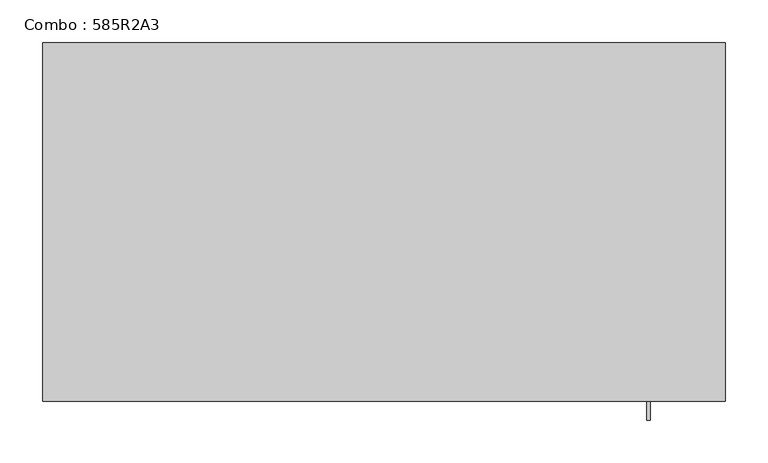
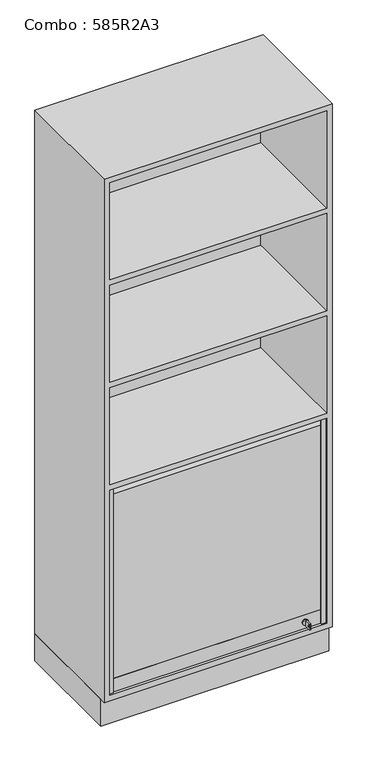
"""IFC4 building model written with IfcOpenShell, lengths in millimetres: furniture geometry, Combo : 585R2A3."""

import ifcopenshell
import ifcopenshell.guid

model = None  # the IFC model being written
_history = None  # IfcOwnerHistory: only IFC2X3 demands one
_inside = {}  # id of a spatial element -> (the spatial element, [elements in it])
_under = {}  # id of a project, library or spatial element -> (it, [spatial elements below it])
_declared = {}  # id of a project -> (the project, [libraries it declares])
_typed = {}  # id of a type object -> (the type object, [elements of that type])
_made_of = {}  # id of a material, layer set ... -> (it, [elements and type objects made of it])


def new_model(schema):
    """Start an empty IFC model of exactly this schema.

    Asked for "IFC4X3", IfcOpenShell would pick the latest addendum, in which some entities
    have other attributes; the version numbers below select the first issue.
    IFC2X3 requires an IfcOwnerHistory on every rooted entity: one is made here for all.
    """
    global model, _history
    if schema == "IFC4X3":
        model = ifcopenshell.file(schema_version=(4, 3, 0, 0))
    else:
        model = ifcopenshell.file(schema=schema)
    _inside.clear()
    _under.clear()
    _declared.clear()
    _typed.clear()
    _made_of.clear()
    _history = None
    if model.schema == "IFC2X3":
        org = make("IfcOrganization", Name="unknown")
        user = make(
            "IfcPersonAndOrganization",
            ThePerson=make("IfcPerson", FamilyName="unknown"),
            TheOrganization=org,
        )
        app = make(
            "IfcApplication",
            ApplicationDeveloper=org,
            Version="unknown",
            ApplicationFullName="unknown",
            ApplicationIdentifier="unknown",
        )
        _history = make(
            "IfcOwnerHistory",
            OwningUser=user,
            OwningApplication=app,
            ChangeAction="ADDED",
            CreationDate=0,
        )
    return model


def make(cls, **values):
    """One entity of the class cls with the attributes given. An attribute that is None is left unset."""
    return model.create_entity(
        cls, **{name: value for name, value in values.items() if value is not None}
    )


def rooted(cls, **values):
    """An entity with a GlobalId (a new one), such as an element, a storey or a relation."""
    return make(cls, GlobalId=ifcopenshell.guid.new(), OwnerHistory=_history, **values)


def si_unit(unit_type, name, prefix=None):
    """IfcSIUnit, for example si_unit("LENGTHUNIT", "METRE", prefix="MILLI")."""
    return make("IfcSIUnit", UnitType=unit_type, Prefix=prefix, Name=name)


def assignment(units):
    """IfcUnitAssignment: the units of a project."""
    return None if units is None else make("IfcUnitAssignment", Units=units)


def point(xyz):
    """IfcCartesianPoint."""
    return None if xyz is None else make("IfcCartesianPoint", Coordinates=xyz)


def direction(xyz):
    """IfcDirection."""
    return None if xyz is None else make("IfcDirection", DirectionRatios=xyz)


def frame(location, z_axis=None, x_axis=None):
    """IfcAxis2Placement3D, a coordinate frame: its origin and axes. An axis left out is left unset."""
    return make(
        "IfcAxis2Placement3D",
        Location=point(location),
        Axis=direction(z_axis),
        RefDirection=direction(x_axis),
    )


def frame_2d(location, x_axis=None):
    """IfcAxis2Placement2D, a coordinate frame in the plane: its origin and x axis."""
    return make(
        "IfcAxis2Placement2D", Location=point(location), RefDirection=direction(x_axis)
    )


def origin():
    """The frame at (0, 0, 0) with its axes left unset."""
    return frame((0.0, 0.0, 0.0))


def origin_with_axes():
    """The frame at (0, 0, 0) with the z axis (0, 0, 1) and the x axis (1, 0, 0) written out."""
    return frame((0.0, 0.0, 0.0), z_axis=(0.0, 0.0, 1.0), x_axis=(1.0, 0.0, 0.0))


def place(relative_to, where):
    """IfcLocalPlacement: puts the frame where relative to a parent placement (None: the world)."""
    return make(
        "IfcLocalPlacement", PlacementRelTo=relative_to, RelativePlacement=where
    )


def context(
    kind, dimensions, precision=None, world=None, true_north=None, identifier=None
):
    """IfcGeometricRepresentationContext, for example the 3D "Model" context."""
    return make(
        "IfcGeometricRepresentationContext",
        ContextIdentifier=identifier,
        ContextType=kind,
        CoordinateSpaceDimension=dimensions,
        Precision=precision,
        WorldCoordinateSystem=world,
        TrueNorth=true_north,
    )


def project(units=None, contexts=None):
    """IfcProject with its units and contexts."""
    return rooted(
        "IfcProject",
        Name="project",
        RepresentationContexts=contexts,
        UnitsInContext=assignment(units),
    )


def spatial(cls, under=None, at=None, **own):
    """A site, building, storey or space (cls), placed at a placement, below another one or the project."""
    s = rooted(cls, ObjectPlacement=at, **own)
    if under is not None:
        _under.setdefault(under.id(), (under, []))[1].append(s)
    return s


def polyline(points):
    """IfcPolyline through the points."""
    return make("IfcPolyline", Points=[point(p) for p in points])


def circle_curve(where, radius):
    """IfcCircle in the frame where."""
    return make("IfcCircle", Position=where, Radius=radius)


def trimmed(basis, trim1, trim2, sense, master):
    """IfcTrimmedCurve: the piece of a basis curve between two trims."""
    return make(
        "IfcTrimmedCurve",
        BasisCurve=basis,
        Trim1=trim1,
        Trim2=trim2,
        SenseAgreement=sense,
        MasterRepresentation=master,
    )


def segment(curve, same_sense, transition):
    """IfcCompositeCurveSegment."""
    return make(
        "IfcCompositeCurveSegment",
        Transition=transition,
        SameSense=same_sense,
        ParentCurve=curve,
    )


def composite_curve(segments, self_intersect=None):
    """IfcCompositeCurve: segments joined end to end."""
    return make("IfcCompositeCurve", Segments=segments, SelfIntersect=self_intersect)


def outline(outer, holes=None, kind="AREA"):
    """IfcArbitraryClosedProfileDef: a profile drawn as a closed curve; with holes, ...WithVoids."""
    if holes is None:
        return make("IfcArbitraryClosedProfileDef", ProfileType=kind, OuterCurve=outer)
    return make(
        "IfcArbitraryProfileDefWithVoids",
        ProfileType=kind,
        OuterCurve=outer,
        InnerCurves=holes,
    )


def extrude(swept, where, along, depth):
    """IfcExtrudedAreaSolid: the profile swept, set in the frame where, extruded along a direction by depth."""
    return make(
        "IfcExtrudedAreaSolid",
        SweptArea=swept,
        Position=where,
        ExtrudedDirection=direction(along),
        Depth=depth,
    )


def faces_of(points, faces, orient=None, outer=None):
    """IfcFace entities. A face is a list of loops; a loop is a list of indices into points, from 0.

    orient and outer hold one flag for each loop. By default every Orientation is true, the
    first loop of a face is its IfcFaceOuterBound and the others are IfcFaceBound.
    """
    made = []
    for i, loops in enumerate(faces):
        bounds = []
        for j, loop in enumerate(loops):
            is_outer = j == 0 if outer is None else outer[i][j]
            bounds.append(
                make(
                    "IfcFaceOuterBound" if is_outer else "IfcFaceBound",
                    Bound=make("IfcPolyLoop", Polygon=[points[k] for k in loop]),
                    Orientation=True if orient is None else orient[i][j],
                )
            )
        made.append(make("IfcFace", Bounds=bounds))
    return made


def faceted_brep(points, faces, orient=None, outer=None, voids=None):
    """IfcFacetedBrep: a solid bounded by flat faces; with voids (closed shells), ...WithVoids."""
    shared = [point(p) for p in points]
    hull = make("IfcClosedShell", CfsFaces=faces_of(shared, faces, orient, outer))
    if voids is None:
        return make("IfcFacetedBrep", Outer=hull)
    return make(
        "IfcFacetedBrepWithVoids",
        Outer=hull,
        Voids=[
            make(cls, CfsFaces=faces_of(shared, fs, o, b)) for cls, fs, o, b in voids
        ],
    )


def shape(context_of_items, identifier, shape_type, items):
    """IfcShapeRepresentation: the items that make up one representation, for example the "Body"."""
    return make(
        "IfcShapeRepresentation",
        ContextOfItems=context_of_items,
        RepresentationIdentifier=identifier,
        RepresentationType=shape_type,
        Items=items,
    )


def source(mapping_origin, context_of_items, identifier, shape_type, items):
    """IfcRepresentationMap: a shape defined once, which mapped items show again and again."""
    return make(
        "IfcRepresentationMap",
        MappingOrigin=mapping_origin,
        MappedRepresentation=shape(context_of_items, identifier, shape_type, items),
    )


def transform(
    local_origin,
    x_axis=None,
    y_axis=None,
    z_axis=None,
    scale=None,
    scale2=None,
    scale3=None,
    uniform=True,
):
    """IfcCartesianTransformationOperator3D, or its non-uniform kind. x_axis, y_axis, z_axis: its Axis1, 2, 3."""
    if uniform:
        return make(
            "IfcCartesianTransformationOperator3D",
            Axis1=direction(x_axis),
            Axis2=direction(y_axis),
            LocalOrigin=point(local_origin),
            Scale=scale,
            Axis3=direction(z_axis),
        )
    return make(
        "IfcCartesianTransformationOperator3DnonUniform",
        Axis1=direction(x_axis),
        Axis2=direction(y_axis),
        LocalOrigin=point(local_origin),
        Scale=scale,
        Axis3=direction(z_axis),
        Scale2=scale2,
        Scale3=scale3,
    )


def mapped(mapping_source, mapping_target):
    """IfcMappedItem: shows the shape of a source again, moved by a transform."""
    return make(
        "IfcMappedItem", MappingSource=mapping_source, MappingTarget=mapping_target
    )


def made_of(thing, what):
    """Note that an element or type object is made of a material, layer set ...; save() writes the relation."""
    if what is not None:
        _made_of.setdefault(what.id(), (what, []))[1].append(thing)
    return thing


def element(
    cls,
    number,
    at=None,
    inside=None,
    cuts=None,
    type_object=None,
    material=None,
    context=None,
    identifier="Body",
    shape_type=None,
    held_by="IfcProductDefinitionShape",
    body=None,
    shapes=None,
    **own,
):
    """One element of the class cls, such as IfcWall. Its Tag is "e" and its number.

    at: its placement. inside: the storey or other place that contains it. cuts: it is an
    opening in that element (IfcRelVoidsElement). A single representation is given by context,
    identifier, shape_type and body (its items); several are given by shapes. held_by: the class
    of the entity that holds the representations. save() writes the other relations.
    """
    e = rooted(cls, Tag="e%d" % number, ObjectPlacement=at, **own)
    if body is not None:
        shapes = [shape(context, identifier, shape_type, body)]
    if shapes is not None:
        e.Representation = make(held_by, Representations=shapes)
    if inside is not None:
        _inside.setdefault(inside.id(), (inside, []))[1].append(e)
    if cuts is not None:
        rooted(
            "IfcRelVoidsElement", RelatingBuildingElement=cuts, RelatedOpeningElement=e
        )
    if type_object is not None:
        _typed.setdefault(type_object.id(), (type_object, []))[1].append(e)
    return made_of(e, material)


def aggregate(whole, parts):
    """IfcRelAggregates: a whole, such as a stair, and the parts it consists of."""
    return rooted("IfcRelAggregates", RelatingObject=whole, RelatedObjects=parts)


def save(model, path):
    """Write the relations noted so far, then the file.

    IfcRelAggregates (storeys below a building ...), IfcRelContainedInSpatialStructure (elements
    in a storey), IfcRelDefinesByType, IfcRelAssociatesMaterial and IfcRelDeclares: one each for
    every whole, place, type object, material and project.
    """
    for whole, parts in _under.values():
        aggregate(whole, parts)
    for where, things in _inside.values():
        rooted(
            "IfcRelContainedInSpatialStructure",
            RelatedElements=things,
            RelatingStructure=where,
        )
    for kind, things in _typed.values():
        rooted("IfcRelDefinesByType", RelatedObjects=things, RelatingType=kind)
    for what, things in _made_of.values():
        rooted("IfcRelAssociatesMaterial", RelatedObjects=things, RelatingMaterial=what)
    for by, libraries in _declared.values():
        rooted("IfcRelDeclares", RelatingContext=by, RelatedDefinitions=libraries)
    model.write(path)


def combo_585r2a3_b05462e7(model_context):
    return source(origin(), model_context, "Body", "SolidModel", [
        extrude(outline(polyline([(-400.0, -400.0), (-400.0, 0.0), (400.0, 0.0), (400.0, -400.0), (-400.0, -400.0)])), origin_with_axes(), (0.0, 0.0, 1.0), 100.0),
        extrude(outline(composite_curve([segment(trimmed(circle_curve(frame_2d((145.0, 310.0)), 10.0), [point((145.0, 300.0))], [point((145.0, 320.0))], False, "CARTESIAN"), True, "CONTINUOUS"), segment(trimmed(circle_curve(frame_2d((145.0, 310.0)), 10.0), [point((145.0, 320.0))], [point((145.0, 300.0))], False, "CARTESIAN"), True, "CONTINUOUS")], self_intersect=False)), frame((0.0, -414.0, 0.0), z_axis=(0.0, 1.0, 0.0), x_axis=(0.0, 0.0, 1.0)), (0.0, 0.0, 1.0), 4.0),
        extrude(outline(polyline([(-442.0, 134.014113), (-442.0, 156.0), (-420.0, 156.0), (-420.0, 134.014113), (-442.0, 134.014113)]), holes=[composite_curve([segment(trimmed(circle_curve(frame_2d((-435.75, 145.0070565)), 3.2230706), [point((-435.75, 148.2301271))], [point((-435.75, 141.7839859))], True, "CARTESIAN"), True, "CONTINUOUS"), segment(trimmed(circle_curve(frame_2d((-435.75, 145.0070565)), 3.2230706), [point((-435.75, 141.7839859))], [point((-435.75, 148.2301271))], True, "CARTESIAN"), True, "CONTINUOUS")], self_intersect=False)]), frame((308.0, 0.0, 0.0), z_axis=(1.0, 0.0, 0.0), x_axis=(0.0, 1.0, 0.0)), (0.0, 0.0, 1.0), 4.0416064),
        extrude(outline(polyline([(311.0416064, -420.0), (309.0, -420.0), (309.0, -414.0), (311.0416064, -414.0), (311.0416064, -420.0)])), frame((0.0, 0.0, 141.014113), z_axis=(0.0, 0.0, 1.0), x_axis=(1.0, 0.0, 0.0)), (0.0, 0.0, 1.0), 7.985887),
        extrude(outline(polyline([(380.0, -400.0), (380.0, -410.0), (-380.0, -410.0), (-380.0, -400.0), (380.0, -400.0)])), frame((0.0, 0.0, 120.0), z_axis=(0.0, 0.0, 1.0), x_axis=(1.0, 0.0, 0.0)), (0.0, 0.0, 1.0), 50.0),
        extrude(outline(polyline([(-365.0, -415.0), (-380.0, -415.0), (-380.0, -410.0), (-365.0, -410.0), (-365.0, -415.0)])), frame((0.0, 0.0, 120.0), z_axis=(0.0, 0.0, 1.0), x_axis=(1.0, 0.0, 0.0)), (0.0, 0.0, 1.0), 760.0),
        extrude(outline(polyline([(380.0, -415.0), (365.0, -415.0), (365.0, -410.0), (380.0, -410.0), (380.0, -415.0)])), frame((0.0, 0.0, 120.0), z_axis=(0.0, 0.0, 1.0), x_axis=(1.0, 0.0, 0.0)), (0.0, 0.0, 1.0), 760.0),
        extrude(outline(composite_curve([segment(trimmed(circle_curve(frame_2d((-390.0, 854.0)), 20.0), [point((-410.0, 854.0))], [point((-390.0, 874.0))], False, "CARTESIAN"), True, "CONTINUOUS"), segment(polyline([(-390.0, 874.0), (-360.0, 874.0), (-360.0, 864.0), (-390.0, 864.0)]), True, "CONTINUOUS"), segment(trimmed(circle_curve(frame_2d((-390.0, 854.0)), 10.0), [point((-390.0, 864.0))], [point((-400.0, 854.0))], True, "CARTESIAN"), True, "CONTINUOUS"), segment(polyline([(-400.0, 854.0), (-400.0, 170.0), (-410.0, 170.0), (-410.0, 854.0)]), True, "CONTINUOUS")], self_intersect=False)), frame((-380.0, 0.0, 0.0), z_axis=(1.0, 0.0, 0.0), x_axis=(0.0, 1.0, 0.0)), (0.0, 0.0, 1.0), 760.0),
        faceted_brep([(400.0, 0.0, 2040.0), (-400.0, 0.0, 2040.0), (-400.0, -420.0, 2040.0), (400.0, -420.0, 2040.0), (-400.0, 0.0, 100.0), (400.0, 0.0, 100.0), (400.0, -420.0, 100.0), (-400.0, -420.0, 100.0), (-380.0, -420.0, 900.0), (-380.0, -420.0, 1260.0), (380.0, -420.0, 1260.0), (380.0, -420.0, 900.0), (380.0, -420.0, 1640.0), (380.0, -420.0, 1280.0), (-380.0, -420.0, 1280.0), (-380.0, -420.0, 1640.0), (-380.0, -420.0, 2020.0), (380.0, -420.0, 2020.0), (380.0, -420.0, 1660.0), (-380.0, -420.0, 1660.0), (380.0, -420.0, 880.0), (380.0, -420.0, 120.0), (-380.0, -420.0, 120.0), (-380.0, -420.0, 880.0), (380.0, -20.0, 1640.0), (380.0, -20.0, 1280.0), (-380.0, -20.0, 2020.0), (380.0, -20.0, 2020.0), (-380.0, -20.0, 900.0), (-380.0, -20.0, 1260.0), (380.0, -20.0, 900.0), (-380.0, -20.0, 1280.0), (-380.0, -20.0, 1640.0), (380.0, -20.0, 1660.0), (-380.0, -20.0, 1660.0), (-380.0, -20.0, 120.0), (380.0, -20.0, 120.0), (380.0, -20.0, 880.0), (-380.0, -20.0, 880.0), (380.0, -20.0, 1260.0)], [[[0, 1, 2, 3]], [[4, 5, 6, 7]], [[1, 0, 5, 4]], [[2, 1, 4, 7]], [[3, 2, 7, 6], [8, 9, 10, 11], [12, 13, 14, 15], [16, 17, 18, 19], [20, 21, 22, 23]], [[0, 3, 6, 5]], [[24, 25, 13, 12]], [[26, 27, 17, 16]], [[28, 29, 9, 8]], [[30, 28, 8, 11]], [[31, 32, 15, 14]], [[33, 27, 26, 34]], [[35, 36, 37, 38]], [[37, 36, 21, 20]], [[35, 38, 23, 22]], [[36, 35, 22, 21]], [[38, 37, 20, 23]], [[30, 39, 29, 28]], [[39, 30, 11, 10]], [[29, 39, 10, 9]], [[25, 24, 32, 31]], [[32, 24, 12, 15]], [[25, 31, 14, 13]], [[27, 33, 18, 17]], [[34, 26, 16, 19]], [[33, 34, 19, 18]]]),
    ])


if __name__ == "__main__":
    model = new_model("IFC4")
    model_context = context("Model", 3, world=origin())
    ifc_project = project(units=[si_unit("LENGTHUNIT", "METRE", prefix="MILLI")], contexts=[model_context])
    site = spatial("IfcSite", under=ifc_project)
    building = spatial("IfcBuilding", under=site)
    placement = place(None, origin())
    combo_585r2a3_shape = combo_585r2a3_b05462e7(model_context)
    element("IfcFurniture", 1, ObjectType="Combo : 585R2A3", at=placement, inside=building, context=model_context, shape_type="MappedRepresentation", body=[
        mapped(combo_585r2a3_shape, transform((0.0, 0.0, 0.0), x_axis=(1.0, 0.0, 0.0), y_axis=(0.0, 1.0, 0.0), z_axis=(0.0, 0.0, 1.0))),
    ])
    save(model, "model.ifc")
